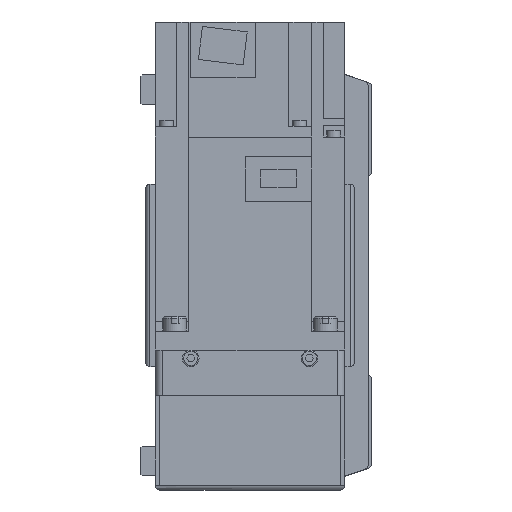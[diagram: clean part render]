
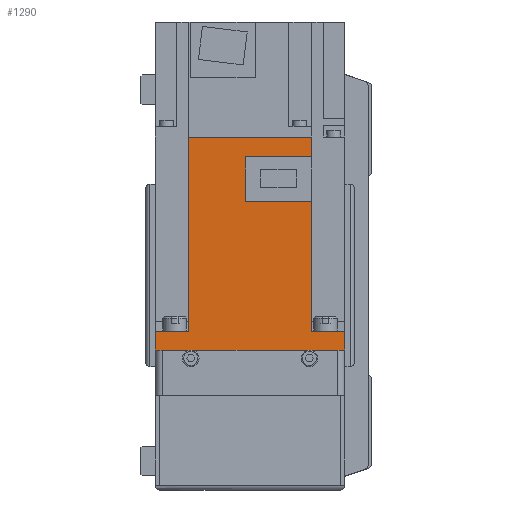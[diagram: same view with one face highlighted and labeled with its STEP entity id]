
A CAD part, left-side view. The second image highlights one B-rep face of the part: STEP entity #1290.
In plain terms, the highlighted planar face has unit normal (-1, 0, 0) as drawn and (1, 0, 0) by its records, which use the part's own axes.
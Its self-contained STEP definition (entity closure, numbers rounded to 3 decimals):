
#1290 = ADVANCED_FACE( '', ( #3374 ), #3375, .F. );
#3374 = FACE_OUTER_BOUND( '', #6496, .T. );
#3375 = PLANE( '', #6497 );
#6496 = EDGE_LOOP( '', ( #10103, #10104, #10105, #10106, #10107, #10108, #10109, #10110, #10111, #10112, #10113, #10114 ) );
#6497 = AXIS2_PLACEMENT_3D( '', #10115, #10116, #10117 );
#10103 = ORIENTED_EDGE( '', *, *, #18447, .F. );
#10104 = ORIENTED_EDGE( '', *, *, #18448, .F. );
#10105 = ORIENTED_EDGE( '', *, *, #18449, .F. );
#10106 = ORIENTED_EDGE( '', *, *, #18450, .T. );
#10107 = ORIENTED_EDGE( '', *, *, #18451, .F. );
#10108 = ORIENTED_EDGE( '', *, *, #18452, .T. );
#10109 = ORIENTED_EDGE( '', *, *, #18453, .T. );
#10110 = ORIENTED_EDGE( '', *, *, #18454, .F. );
#10111 = ORIENTED_EDGE( '', *, *, #18455, .F. );
#10112 = ORIENTED_EDGE( '', *, *, #18456, .F. );
#10113 = ORIENTED_EDGE( '', *, *, #18457, .F. );
#10114 = ORIENTED_EDGE( '', *, *, #18458, .F. );
#10115 = CARTESIAN_POINT( '', ( 40., 89.8, 40. ) );
#10116 = DIRECTION( '', ( -1., 0., 0. ) );
#10117 = DIRECTION( '', ( 0., 0., 1. ) );
#18447 = EDGE_CURVE( '', #22194, #22195, #22196, .T. );
#18448 = EDGE_CURVE( '', #22197, #22194, #22198, .T. );
#18449 = EDGE_CURVE( '', #22199, #22197, #22200, .T. );
#18450 = EDGE_CURVE( '', #22199, #22201, #22202, .T. );
#18451 = EDGE_CURVE( '', #22203, #22201, #22204, .T. );
#18452 = EDGE_CURVE( '', #22203, #22205, #22206, .T. );
#18453 = EDGE_CURVE( '', #22205, #22207, #22208, .T. );
#18454 = EDGE_CURVE( '', #22209, #22207, #22210, .T. );
#18455 = EDGE_CURVE( '', #22211, #22209, #22212, .T. );
#18456 = EDGE_CURVE( '', #22213, #22211, #22214, .T. );
#18457 = EDGE_CURVE( '', #22215, #22213, #22216, .T. );
#18458 = EDGE_CURVE( '', #22195, #22215, #22217, .T. );
#22194 = VERTEX_POINT( '', #27496 );
#22195 = VERTEX_POINT( '', #27497 );
#22196 = LINE( '', #27498, #27499 );
#22197 = VERTEX_POINT( '', #27500 );
#22198 = LINE( '', #27501, #27502 );
#22199 = VERTEX_POINT( '', #27503 );
#22200 = LINE( '', #27504, #27505 );
#22201 = VERTEX_POINT( '', #27506 );
#22202 = LINE( '', #27507, #27508 );
#22203 = VERTEX_POINT( '', #27509 );
#22204 = LINE( '', #27510, #27511 );
#22205 = VERTEX_POINT( '', #27512 );
#22206 = LINE( '', #27513, #27514 );
#22207 = VERTEX_POINT( '', #27515 );
#22208 = LINE( '', #27516, #27517 );
#22209 = VERTEX_POINT( '', #27518 );
#22210 = LINE( '', #27519, #27520 );
#22211 = VERTEX_POINT( '', #27521 );
#22212 = LINE( '', #27522, #27523 );
#22213 = VERTEX_POINT( '', #27524 );
#22214 = LINE( '', #27525, #27526 );
#22215 = VERTEX_POINT( '', #27527 );
#22216 = LINE( '', #27528, #27529 );
#22217 = LINE( '', #27530, #27531 );
#27496 = CARTESIAN_POINT( '', ( 40., 81.4, -25.95 ) );
#27497 = CARTESIAN_POINT( '', ( 40., 81.4, 1.8 ) );
#27498 = CARTESIAN_POINT( '', ( 40., 81.4, -26. ) );
#27499 = VECTOR( '', #34072, 1000. );
#27500 = CARTESIAN_POINT( '', ( 40., 89.8, -25.95 ) );
#27501 = CARTESIAN_POINT( '', ( 40., 158., -25.95 ) );
#27502 = VECTOR( '', #34073, 1000. );
#27503 = CARTESIAN_POINT( '', ( 40., 89.8, 25.95 ) );
#27504 = CARTESIAN_POINT( '', ( 40., 89.8, 40. ) );
#27505 = VECTOR( '', #34074, 1000. );
#27506 = CARTESIAN_POINT( '', ( 40., 8., 25.95 ) );
#27507 = CARTESIAN_POINT( '', ( 40., 158., 25.95 ) );
#27508 = VECTOR( '', #34075, 1000. );
#27509 = CARTESIAN_POINT( '', ( 40., 8., 40. ) );
#27510 = CARTESIAN_POINT( '', ( 40., 8., 40. ) );
#27511 = VECTOR( '', #34076, 1000. );
#27512 = CARTESIAN_POINT( '', ( 40., 0., 40. ) );
#27513 = CARTESIAN_POINT( '', ( 40., 89.8, 40. ) );
#27514 = VECTOR( '', #34077, 1000. );
#27515 = CARTESIAN_POINT( '', ( 40., 0., -40. ) );
#27516 = CARTESIAN_POINT( '', ( 40., 0., 40. ) );
#27517 = VECTOR( '', #34078, 1000. );
#27518 = CARTESIAN_POINT( '', ( 40., 8., -40. ) );
#27519 = CARTESIAN_POINT( '', ( 40., 89.8, -40. ) );
#27520 = VECTOR( '', #34079, 1000. );
#27521 = CARTESIAN_POINT( '', ( 40., 8., -25.95 ) );
#27522 = CARTESIAN_POINT( '', ( 40., 8., 40. ) );
#27523 = VECTOR( '', #34080, 1000. );
#27524 = CARTESIAN_POINT( '', ( 40., 62.8, -25.95 ) );
#27525 = CARTESIAN_POINT( '', ( 40., 158., -25.95 ) );
#27526 = VECTOR( '', #34081, 1000. );
#27527 = CARTESIAN_POINT( '', ( 40., 62.8, 1.8 ) );
#27528 = CARTESIAN_POINT( '', ( 40., 62.8, 1.8 ) );
#27529 = VECTOR( '', #34082, 1000. );
#27530 = CARTESIAN_POINT( '', ( 40., 81.4, 1.8 ) );
#27531 = VECTOR( '', #34083, 1000. );
#34072 = DIRECTION( '', ( 0., 0., 1. ) );
#34073 = DIRECTION( '', ( 0., -1., 0. ) );
#34074 = DIRECTION( '', ( 0., 0., -1. ) );
#34075 = DIRECTION( '', ( 0., -1., 0. ) );
#34076 = DIRECTION( '', ( 0., 0., -1. ) );
#34077 = DIRECTION( '', ( 0., -1., 0. ) );
#34078 = DIRECTION( '', ( 0., 0., -1. ) );
#34079 = DIRECTION( '', ( 0., -1., 0. ) );
#34080 = DIRECTION( '', ( 0., 0., -1. ) );
#34081 = DIRECTION( '', ( 0., -1., 0. ) );
#34082 = DIRECTION( '', ( 0., 0., -1. ) );
#34083 = DIRECTION( '', ( 0., -1., 0. ) );
